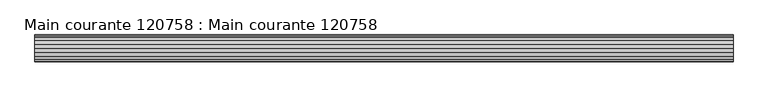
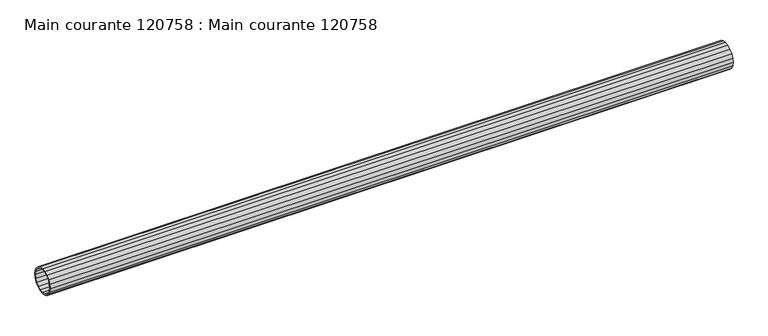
"""IFC4 building model written with IfcOpenShell, lengths in millimetres: beam geometry, Main courante 120758 : Main courante 120758."""

import ifcopenshell
import ifcopenshell.guid

model = None  # the IFC model being written
_history = None  # IfcOwnerHistory: only IFC2X3 demands one
_inside = {}  # id of a spatial element -> (the spatial element, [elements in it])
_under = {}  # id of a project, library or spatial element -> (it, [spatial elements below it])
_declared = {}  # id of a project -> (the project, [libraries it declares])
_typed = {}  # id of a type object -> (the type object, [elements of that type])
_made_of = {}  # id of a material, layer set ... -> (it, [elements and type objects made of it])


def new_model(schema):
    """Start an empty IFC model of exactly this schema.

    Asked for "IFC4X3", IfcOpenShell would pick the latest addendum, in which some entities
    have other attributes; the version numbers below select the first issue.
    IFC2X3 requires an IfcOwnerHistory on every rooted entity: one is made here for all.
    """
    global model, _history
    if schema == "IFC4X3":
        model = ifcopenshell.file(schema_version=(4, 3, 0, 0))
    else:
        model = ifcopenshell.file(schema=schema)
    _inside.clear()
    _under.clear()
    _declared.clear()
    _typed.clear()
    _made_of.clear()
    _history = None
    if model.schema == "IFC2X3":
        org = make("IfcOrganization", Name="unknown")
        user = make(
            "IfcPersonAndOrganization",
            ThePerson=make("IfcPerson", FamilyName="unknown"),
            TheOrganization=org,
        )
        app = make(
            "IfcApplication",
            ApplicationDeveloper=org,
            Version="unknown",
            ApplicationFullName="unknown",
            ApplicationIdentifier="unknown",
        )
        _history = make(
            "IfcOwnerHistory",
            OwningUser=user,
            OwningApplication=app,
            ChangeAction="ADDED",
            CreationDate=0,
        )
    return model


def make(cls, **values):
    """One entity of the class cls with the attributes given. An attribute that is None is left unset."""
    return model.create_entity(
        cls, **{name: value for name, value in values.items() if value is not None}
    )


def rooted(cls, **values):
    """An entity with a GlobalId (a new one), such as an element, a storey or a relation."""
    return make(cls, GlobalId=ifcopenshell.guid.new(), OwnerHistory=_history, **values)


def si_unit(unit_type, name, prefix=None):
    """IfcSIUnit, for example si_unit("LENGTHUNIT", "METRE", prefix="MILLI")."""
    return make("IfcSIUnit", UnitType=unit_type, Prefix=prefix, Name=name)


def assignment(units):
    """IfcUnitAssignment: the units of a project."""
    return None if units is None else make("IfcUnitAssignment", Units=units)


def point(xyz):
    """IfcCartesianPoint."""
    return None if xyz is None else make("IfcCartesianPoint", Coordinates=xyz)


def direction(xyz):
    """IfcDirection."""
    return None if xyz is None else make("IfcDirection", DirectionRatios=xyz)


def frame(location, z_axis=None, x_axis=None):
    """IfcAxis2Placement3D, a coordinate frame: its origin and axes. An axis left out is left unset."""
    return make(
        "IfcAxis2Placement3D",
        Location=point(location),
        Axis=direction(z_axis),
        RefDirection=direction(x_axis),
    )


def origin():
    """The frame at (0, 0, 0) with its axes left unset."""
    return frame((0.0, 0.0, 0.0))


def place(relative_to, where):
    """IfcLocalPlacement: puts the frame where relative to a parent placement (None: the world)."""
    return make(
        "IfcLocalPlacement", PlacementRelTo=relative_to, RelativePlacement=where
    )


def context(
    kind, dimensions, precision=None, world=None, true_north=None, identifier=None
):
    """IfcGeometricRepresentationContext, for example the 3D "Model" context."""
    return make(
        "IfcGeometricRepresentationContext",
        ContextIdentifier=identifier,
        ContextType=kind,
        CoordinateSpaceDimension=dimensions,
        Precision=precision,
        WorldCoordinateSystem=world,
        TrueNorth=true_north,
    )


def project(units=None, contexts=None):
    """IfcProject with its units and contexts."""
    return rooted(
        "IfcProject",
        Name="project",
        RepresentationContexts=contexts,
        UnitsInContext=assignment(units),
    )


def spatial(cls, under=None, at=None, **own):
    """A site, building, storey or space (cls), placed at a placement, below another one or the project."""
    s = rooted(cls, ObjectPlacement=at, **own)
    if under is not None:
        _under.setdefault(under.id(), (under, []))[1].append(s)
    return s


def polyline(points):
    """IfcPolyline through the points."""
    return make("IfcPolyline", Points=[point(p) for p in points])


def outline(outer, holes=None, kind="AREA"):
    """IfcArbitraryClosedProfileDef: a profile drawn as a closed curve; with holes, ...WithVoids."""
    if holes is None:
        return make("IfcArbitraryClosedProfileDef", ProfileType=kind, OuterCurve=outer)
    return make(
        "IfcArbitraryProfileDefWithVoids",
        ProfileType=kind,
        OuterCurve=outer,
        InnerCurves=holes,
    )


def extrude(swept, where, along, depth):
    """IfcExtrudedAreaSolid: the profile swept, set in the frame where, extruded along a direction by depth."""
    return make(
        "IfcExtrudedAreaSolid",
        SweptArea=swept,
        Position=where,
        ExtrudedDirection=direction(along),
        Depth=depth,
    )


def shape(context_of_items, identifier, shape_type, items):
    """IfcShapeRepresentation: the items that make up one representation, for example the "Body"."""
    return make(
        "IfcShapeRepresentation",
        ContextOfItems=context_of_items,
        RepresentationIdentifier=identifier,
        RepresentationType=shape_type,
        Items=items,
    )


def source(mapping_origin, context_of_items, identifier, shape_type, items):
    """IfcRepresentationMap: a shape defined once, which mapped items show again and again."""
    return make(
        "IfcRepresentationMap",
        MappingOrigin=mapping_origin,
        MappedRepresentation=shape(context_of_items, identifier, shape_type, items),
    )


def transform(
    local_origin,
    x_axis=None,
    y_axis=None,
    z_axis=None,
    scale=None,
    scale2=None,
    scale3=None,
    uniform=True,
):
    """IfcCartesianTransformationOperator3D, or its non-uniform kind. x_axis, y_axis, z_axis: its Axis1, 2, 3."""
    if uniform:
        return make(
            "IfcCartesianTransformationOperator3D",
            Axis1=direction(x_axis),
            Axis2=direction(y_axis),
            LocalOrigin=point(local_origin),
            Scale=scale,
            Axis3=direction(z_axis),
        )
    return make(
        "IfcCartesianTransformationOperator3DnonUniform",
        Axis1=direction(x_axis),
        Axis2=direction(y_axis),
        LocalOrigin=point(local_origin),
        Scale=scale,
        Axis3=direction(z_axis),
        Scale2=scale2,
        Scale3=scale3,
    )


def mapped(mapping_source, mapping_target):
    """IfcMappedItem: shows the shape of a source again, moved by a transform."""
    return make(
        "IfcMappedItem", MappingSource=mapping_source, MappingTarget=mapping_target
    )


def made_of(thing, what):
    """Note that an element or type object is made of a material, layer set ...; save() writes the relation."""
    if what is not None:
        _made_of.setdefault(what.id(), (what, []))[1].append(thing)
    return thing


def element(
    cls,
    number,
    at=None,
    inside=None,
    cuts=None,
    type_object=None,
    material=None,
    context=None,
    identifier="Body",
    shape_type=None,
    held_by="IfcProductDefinitionShape",
    body=None,
    shapes=None,
    **own,
):
    """One element of the class cls, such as IfcWall. Its Tag is "e" and its number.

    at: its placement. inside: the storey or other place that contains it. cuts: it is an
    opening in that element (IfcRelVoidsElement). A single representation is given by context,
    identifier, shape_type and body (its items); several are given by shapes. held_by: the class
    of the entity that holds the representations. save() writes the other relations.
    """
    e = rooted(cls, Tag="e%d" % number, ObjectPlacement=at, **own)
    if body is not None:
        shapes = [shape(context, identifier, shape_type, body)]
    if shapes is not None:
        e.Representation = make(held_by, Representations=shapes)
    if inside is not None:
        _inside.setdefault(inside.id(), (inside, []))[1].append(e)
    if cuts is not None:
        rooted(
            "IfcRelVoidsElement", RelatingBuildingElement=cuts, RelatedOpeningElement=e
        )
    if type_object is not None:
        _typed.setdefault(type_object.id(), (type_object, []))[1].append(e)
    return made_of(e, material)


def aggregate(whole, parts):
    """IfcRelAggregates: a whole, such as a stair, and the parts it consists of."""
    return rooted("IfcRelAggregates", RelatingObject=whole, RelatedObjects=parts)


def save(model, path):
    """Write the relations noted so far, then the file.

    IfcRelAggregates (storeys below a building ...), IfcRelContainedInSpatialStructure (elements
    in a storey), IfcRelDefinesByType, IfcRelAssociatesMaterial and IfcRelDeclares: one each for
    every whole, place, type object, material and project.
    """
    for whole, parts in _under.values():
        aggregate(whole, parts)
    for where, things in _inside.values():
        rooted(
            "IfcRelContainedInSpatialStructure",
            RelatedElements=things,
            RelatingStructure=where,
        )
    for kind, things in _typed.values():
        rooted("IfcRelDefinesByType", RelatedObjects=things, RelatingType=kind)
    for what, things in _made_of.values():
        rooted("IfcRelAssociatesMaterial", RelatedObjects=things, RelatingMaterial=what)
    for by, libraries in _declared.values():
        rooted("IfcRelDeclares", RelatingContext=by, RelatedDefinitions=libraries)
    model.write(path)


def main_courante_120758_main_courante_120758_3dafa615(model_context):
    return source(origin(), model_context, "Body", "SweptSolid", [
        extrude(outline(polyline([(-14149.8127604, 8787.9680149), (-14142.35, 8789.15), (-14134.8872396, 8787.9680149), (-14128.1549862, 8784.5377604), (-14122.8122396, 8779.1950138), (-14119.3819851, 8772.4627604), (-14118.2, 8765.0), (-14119.3819851, 8757.5372396), (-14122.8122396, 8750.8049862), (-14128.1549862, 8745.4622396), (-14134.8872396, 8742.0319851), (-14142.35, 8740.85), (-14149.8127604, 8742.0319851), (-14156.5450138, 8745.4622396), (-14161.8877604, 8750.8049862), (-14165.3180149, 8757.5372396), (-14166.5, 8765.0), (-14165.3180149, 8772.4627604), (-14161.8877604, 8779.1950138), (-14156.5450138, 8784.5377604), (-14149.8127604, 8787.9680149)]), holes=[polyline([(-14121.7596264, 8771.6902179), (-14124.8347821, 8777.7255507), (-14129.6244493, 8782.5152179), (-14135.6597821, 8785.5903736), (-14142.35, 8786.65), (-14149.0402179, 8785.5903736), (-14155.0755507, 8782.5152179), (-14159.8652179, 8777.7255507), (-14162.9403736, 8771.6902179), (-14164.0, 8765.0), (-14162.9403736, 8758.3097821), (-14159.8652179, 8752.2744493), (-14155.0755507, 8747.4847821), (-14149.0402179, 8744.4096264), (-14142.35, 8743.35), (-14135.6597821, 8744.4096264), (-14129.6244493, 8747.4847821), (-14124.8347821, 8752.2744493), (-14121.7596264, 8758.3097821), (-14120.7, 8765.0), (-14121.7596264, 8771.6902179)])]), frame((-28.0000001, 0.0, 0.0), z_axis=(1.0, 0.0, 0.0), x_axis=(0.0, 1.0, 0.0)), (0.0, 0.0, 1.0), 1254.5),
    ])


if __name__ == "__main__":
    model = new_model("IFC4")
    model_context = context("Model", 3, world=origin())
    ifc_project = project(units=[si_unit("LENGTHUNIT", "METRE", prefix="MILLI")], contexts=[model_context])
    site = spatial("IfcSite", under=ifc_project)
    building = spatial("IfcBuilding", under=site)
    placement = place(None, origin())
    main_courante_120758_main_courante_120758_shape = main_courante_120758_main_courante_120758_3dafa615(model_context)
    element("IfcBeam", 1, ObjectType="Main courante 120758 : Main courante 120758", at=placement, inside=building, context=model_context, shape_type="MappedRepresentation", body=[
        mapped(main_courante_120758_main_courante_120758_shape, transform((0.0, 0.0, 0.0), x_axis=(1.0, 0.0, 0.0), y_axis=(0.0, 1.0, 0.0), z_axis=(0.0, 0.0, 1.0))),
    ])
    save(model, "model.ifc")
